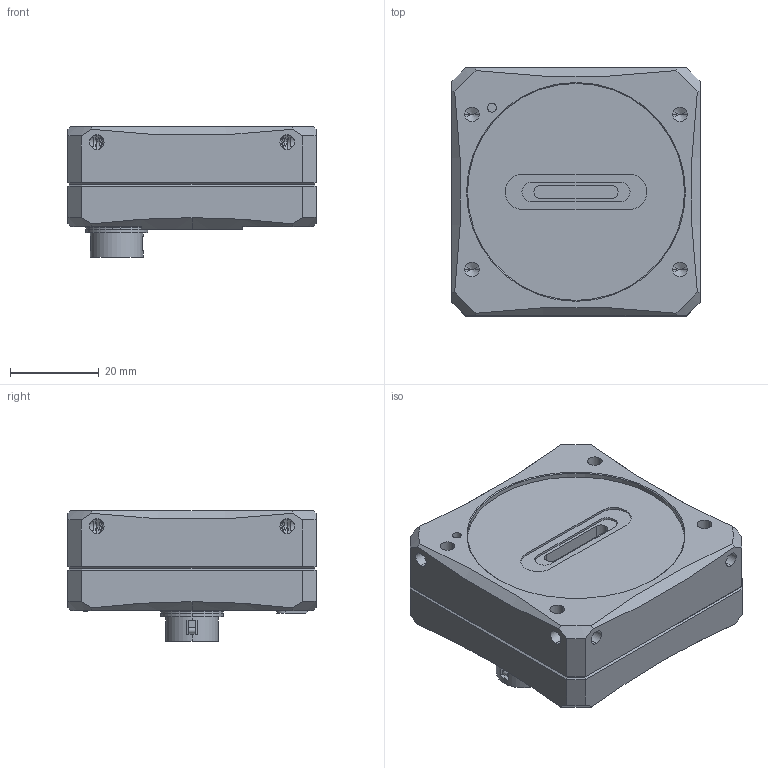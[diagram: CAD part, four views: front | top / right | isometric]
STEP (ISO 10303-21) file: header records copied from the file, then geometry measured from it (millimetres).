
FILE_DESCRIPTION (( 'STEP AP214' ), '1' );
FILE_NAME ('Necta_S.STEP', '2021-12-09T16:13:03', ( '' ), ( '' ), 'SwSTEP 2.0', 'SolidWorks 2021', '' );
FILE_SCHEMA (( 'AUTOMOTIVE_DESIGN' ));
Length unit declared in the file: millimetre
Products named in the file (1): Necta_S
Bounding box: 56 x 56 x 29.49 mm (x, y, z)
Volume: 69960.9 mm3; surface area: 21497.2 mm2
Topology: 11 solids, 21 shells, 1185 faces, 2888 edges, 1787 vertices
Faces by surface type: plane 590, cylinder 339, cone 159, bspline 67, torus 30
Entity records: 52224 total; most frequent: CARTESIAN_POINT 11502, ORIENTED_EDGE 5720, DIRECTION 5670, EDGE_CURVE 2860, AXIS2_PLACEMENT_3D 1976, VERTEX_POINT 1787, VECTOR 1718, LINE 1718
